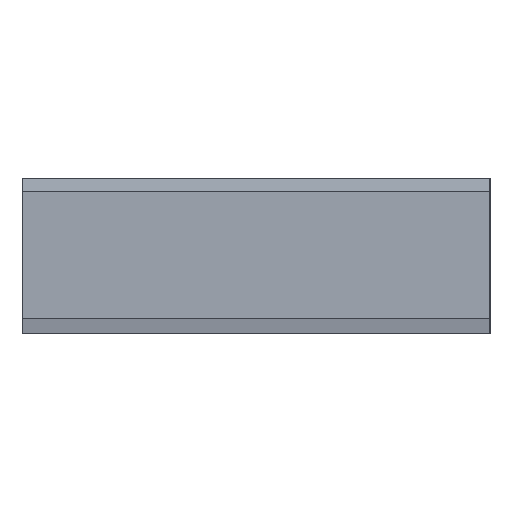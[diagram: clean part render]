
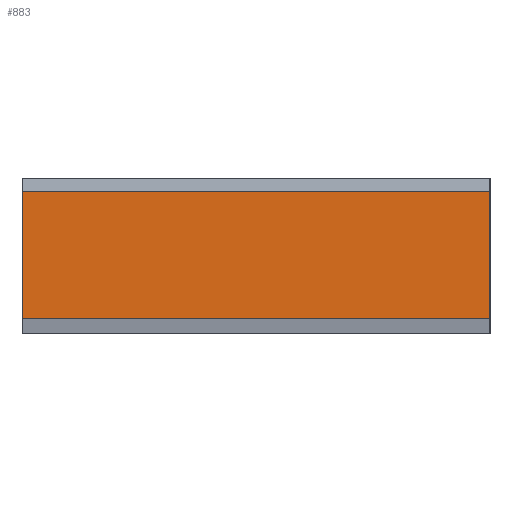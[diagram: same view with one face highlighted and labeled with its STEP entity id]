
A CAD part, left-side view. The second image highlights one B-rep face of the part: STEP entity #883.
In plain terms, the highlighted free-form (B-spline) face has degree [1, 1] with [2, 2] control points.
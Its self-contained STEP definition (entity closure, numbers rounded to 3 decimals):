
#144 = B_SPLINE_SURFACE_WITH_KNOTS('',1,1,(
    (#145,#146)
    ,(#147,#148
    )),.UNSPECIFIED.,.F.,.F.,.F.,(2,2),(2,2),(0.,0.508),(0.,0.762),
  .PIECEWISE_BEZIER_KNOTS.);
#145 = CARTESIAN_POINT('',(-1.554,0.777,0.));
#146 = CARTESIAN_POINT('',(-0.777,0.777,0.));
#147 = CARTESIAN_POINT('',(-1.554,0.777,0.518));
#148 = CARTESIAN_POINT('',(-0.777,0.777,0.518));
#169 = B_SPLINE_SURFACE_WITH_KNOTS('',1,1,(
    (#170,#171)
    ,(#172,#173
    )),.UNSPECIFIED.,.F.,.F.,.F.,(2,2),(2,2),(0.,0.191),(-1.524
    ,0.),.PIECEWISE_BEZIER_KNOTS.);
#170 = CARTESIAN_POINT('',(-1.557,-0.785,0.065)
  );
#171 = CARTESIAN_POINT('',(-1.557,0.785,0.065));
#172 = CARTESIAN_POINT('',(-1.52,-0.785,-0.129));
#173 = CARTESIAN_POINT('',(-1.52,0.785,-0.129));
#194 = B_SPLINE_SURFACE_WITH_KNOTS('',1,1,(
    (#195,#196)
    ,(#197,#198
    )),.UNSPECIFIED.,.F.,.F.,.F.,(2,2),(2,2),(0.,0.508),(0.,0.762),
  .PIECEWISE_BEZIER_KNOTS.);
#195 = CARTESIAN_POINT('',(-1.554,-0.777,0.));
#196 = CARTESIAN_POINT('',(-0.777,-0.777,0.));
#197 = CARTESIAN_POINT('',(-1.554,-0.777,0.518));
#198 = CARTESIAN_POINT('',(-0.777,-0.777,0.518));
#337 = VERTEX_POINT('',#338);
#338 = CARTESIAN_POINT('',(-1.554,0.777,0.05));
#356 = EDGE_CURVE('',#337,#357,#359,.T.);
#357 = VERTEX_POINT('',#358);
#358 = CARTESIAN_POINT('',(-1.554,0.777,0.473));
#359 = SURFACE_CURVE('',#360,(#363,#369),.PCURVE_S1.);
#360 = B_SPLINE_CURVE_WITH_KNOTS('',1,(#361,#362),.UNSPECIFIED.,.F.,.F.,
  (2,2),(0.,0.508),.PIECEWISE_BEZIER_KNOTS.);
#361 = CARTESIAN_POINT('',(-1.554,0.777,0.));
#362 = CARTESIAN_POINT('',(-1.554,0.777,0.518));
#363 = PCURVE('',#144,#364);
#364 = DEFINITIONAL_REPRESENTATION('',(#365),#368);
#365 = B_SPLINE_CURVE_WITH_KNOTS('',1,(#366,#367),.UNSPECIFIED.,.F.,.F.,
  (2,2),(0.,0.508),.PIECEWISE_BEZIER_KNOTS.);
#366 = CARTESIAN_POINT('',(0.,0.));
#367 = CARTESIAN_POINT('',(0.508,0.));
#368 = ( GEOMETRIC_REPRESENTATION_CONTEXT(2) 
PARAMETRIC_REPRESENTATION_CONTEXT() REPRESENTATION_CONTEXT('2D SPACE',''
  ) );
#369 = PCURVE('',#370,#375);
#370 = B_SPLINE_SURFACE_WITH_KNOTS('',1,1,(
    (#371,#372)
    ,(#373,#374
    )),.UNSPECIFIED.,.F.,.F.,.F.,(2,2),(2,2),(0.,0.508),(-1.524,0.),
  .PIECEWISE_BEZIER_KNOTS.);
#371 = CARTESIAN_POINT('',(-1.554,0.777,0.));
#372 = CARTESIAN_POINT('',(-1.554,-0.777,0.));
#373 = CARTESIAN_POINT('',(-1.554,0.777,0.518));
#374 = CARTESIAN_POINT('',(-1.554,-0.777,0.518));
#375 = DEFINITIONAL_REPRESENTATION('',(#376),#379);
#376 = B_SPLINE_CURVE_WITH_KNOTS('',1,(#377,#378),.UNSPECIFIED.,.F.,.F.,
  (2,2),(0.,0.508),.PIECEWISE_BEZIER_KNOTS.);
#377 = CARTESIAN_POINT('',(0.,-1.524));
#378 = CARTESIAN_POINT('',(0.508,-1.524));
#379 = ( GEOMETRIC_REPRESENTATION_CONTEXT(2) 
PARAMETRIC_REPRESENTATION_CONTEXT() REPRESENTATION_CONTEXT('2D SPACE',''
  ) );
#395 = B_SPLINE_SURFACE_WITH_KNOTS('',1,1,(
    (#396,#397)
    ,(#398,#399
    )),.UNSPECIFIED.,.F.,.F.,.F.,(2,2),(2,2),(0.,0.191),(-1.524
    ,0.),.PIECEWISE_BEZIER_KNOTS.);
#396 = CARTESIAN_POINT('',(-1.52,-0.785,0.652));
#397 = CARTESIAN_POINT('',(-1.52,0.785,0.652));
#398 = CARTESIAN_POINT('',(-1.557,-0.785,0.458));
#399 = CARTESIAN_POINT('',(-1.557,0.785,0.458));
#561 = VERTEX_POINT('',#562);
#562 = CARTESIAN_POINT('',(-1.554,-0.777,0.05));
#580 = EDGE_CURVE('',#561,#581,#583,.T.);
#581 = VERTEX_POINT('',#582);
#582 = CARTESIAN_POINT('',(-1.554,-0.777,0.473));
#583 = SURFACE_CURVE('',#584,(#587,#593),.PCURVE_S1.);
#584 = B_SPLINE_CURVE_WITH_KNOTS('',1,(#585,#586),.UNSPECIFIED.,.F.,.F.,
  (2,2),(0.,0.508),.PIECEWISE_BEZIER_KNOTS.);
#585 = CARTESIAN_POINT('',(-1.554,-0.777,0.));
#586 = CARTESIAN_POINT('',(-1.554,-0.777,0.518));
#587 = PCURVE('',#194,#588);
#588 = DEFINITIONAL_REPRESENTATION('',(#589),#592);
#589 = B_SPLINE_CURVE_WITH_KNOTS('',1,(#590,#591),.UNSPECIFIED.,.F.,.F.,
  (2,2),(0.,0.508),.PIECEWISE_BEZIER_KNOTS.);
#590 = CARTESIAN_POINT('',(0.,0.));
#591 = CARTESIAN_POINT('',(0.508,0.));
#592 = ( GEOMETRIC_REPRESENTATION_CONTEXT(2) 
PARAMETRIC_REPRESENTATION_CONTEXT() REPRESENTATION_CONTEXT('2D SPACE',''
  ) );
#593 = PCURVE('',#370,#594);
#594 = DEFINITIONAL_REPRESENTATION('',(#595),#598);
#595 = B_SPLINE_CURVE_WITH_KNOTS('',1,(#596,#597),.UNSPECIFIED.,.F.,.F.,
  (2,2),(0.,0.508),.PIECEWISE_BEZIER_KNOTS.);
#596 = CARTESIAN_POINT('',(0.,0.));
#597 = CARTESIAN_POINT('',(0.508,0.));
#598 = ( GEOMETRIC_REPRESENTATION_CONTEXT(2) 
PARAMETRIC_REPRESENTATION_CONTEXT() REPRESENTATION_CONTEXT('2D SPACE',''
  ) );
#644 = EDGE_CURVE('',#561,#337,#645,.T.);
#645 = SURFACE_CURVE('',#646,(#649,#655),.PCURVE_S1.);
#646 = B_SPLINE_CURVE_WITH_KNOTS('',1,(#647,#648),.UNSPECIFIED.,.F.,.F.,
  (2,2),(0.,1.),.PIECEWISE_BEZIER_KNOTS.);
#647 = CARTESIAN_POINT('',(-1.554,-0.777,0.05));
#648 = CARTESIAN_POINT('',(-1.554,0.777,0.05));
#649 = PCURVE('',#169,#650);
#650 = DEFINITIONAL_REPRESENTATION('',(#651),#654);
#651 = B_SPLINE_CURVE_WITH_KNOTS('',1,(#652,#653),.UNSPECIFIED.,.F.,.F.,
  (2,2),(0.,1.),.PIECEWISE_BEZIER_KNOTS.);
#652 = CARTESIAN_POINT('',(0.015,-1.517));
#653 = CARTESIAN_POINT('',(0.015,-0.007));
#654 = ( GEOMETRIC_REPRESENTATION_CONTEXT(2) 
PARAMETRIC_REPRESENTATION_CONTEXT() REPRESENTATION_CONTEXT('2D SPACE',''
  ) );
#655 = PCURVE('',#370,#656);
#656 = DEFINITIONAL_REPRESENTATION('',(#657),#660);
#657 = B_SPLINE_CURVE_WITH_KNOTS('',1,(#658,#659),.UNSPECIFIED.,.F.,.F.,
  (2,2),(0.,1.),.PIECEWISE_BEZIER_KNOTS.);
#658 = CARTESIAN_POINT('',(0.049,0.));
#659 = CARTESIAN_POINT('',(0.049,-1.524));
#660 = ( GEOMETRIC_REPRESENTATION_CONTEXT(2) 
PARAMETRIC_REPRESENTATION_CONTEXT() REPRESENTATION_CONTEXT('2D SPACE',''
  ) );
#863 = EDGE_CURVE('',#357,#581,#864,.T.);
#864 = SURFACE_CURVE('',#865,(#868,#874),.PCURVE_S1.);
#865 = B_SPLINE_CURVE_WITH_KNOTS('',1,(#866,#867),.UNSPECIFIED.,.F.,.F.,
  (2,2),(0.,1.),.PIECEWISE_BEZIER_KNOTS.);
#866 = CARTESIAN_POINT('',(-1.554,0.777,0.473));
#867 = CARTESIAN_POINT('',(-1.554,-0.777,0.473));
#868 = PCURVE('',#395,#869);
#869 = DEFINITIONAL_REPRESENTATION('',(#870),#873);
#870 = B_SPLINE_CURVE_WITH_KNOTS('',1,(#871,#872),.UNSPECIFIED.,.F.,.F.,
  (2,2),(0.,1.),.PIECEWISE_BEZIER_KNOTS.);
#871 = CARTESIAN_POINT('',(0.177,-0.007));
#872 = CARTESIAN_POINT('',(0.177,-1.517));
#873 = ( GEOMETRIC_REPRESENTATION_CONTEXT(2) 
PARAMETRIC_REPRESENTATION_CONTEXT() REPRESENTATION_CONTEXT('2D SPACE',''
  ) );
#874 = PCURVE('',#370,#875);
#875 = DEFINITIONAL_REPRESENTATION('',(#876),#879);
#876 = B_SPLINE_CURVE_WITH_KNOTS('',1,(#877,#878),.UNSPECIFIED.,.F.,.F.,
  (2,2),(0.,1.),.PIECEWISE_BEZIER_KNOTS.);
#877 = CARTESIAN_POINT('',(0.464,-1.524));
#878 = CARTESIAN_POINT('',(0.464,0.));
#879 = ( GEOMETRIC_REPRESENTATION_CONTEXT(2) 
PARAMETRIC_REPRESENTATION_CONTEXT() REPRESENTATION_CONTEXT('2D SPACE',''
  ) );
#883 = ADVANCED_FACE('',(#884),#370,.F.);
#884 = FACE_BOUND('',#885,.F.);
#885 = EDGE_LOOP('',(#886,#887,#888,#889));
#886 = ORIENTED_EDGE('',*,*,#580,.F.);
#887 = ORIENTED_EDGE('',*,*,#644,.T.);
#888 = ORIENTED_EDGE('',*,*,#356,.T.);
#889 = ORIENTED_EDGE('',*,*,#863,.T.);
